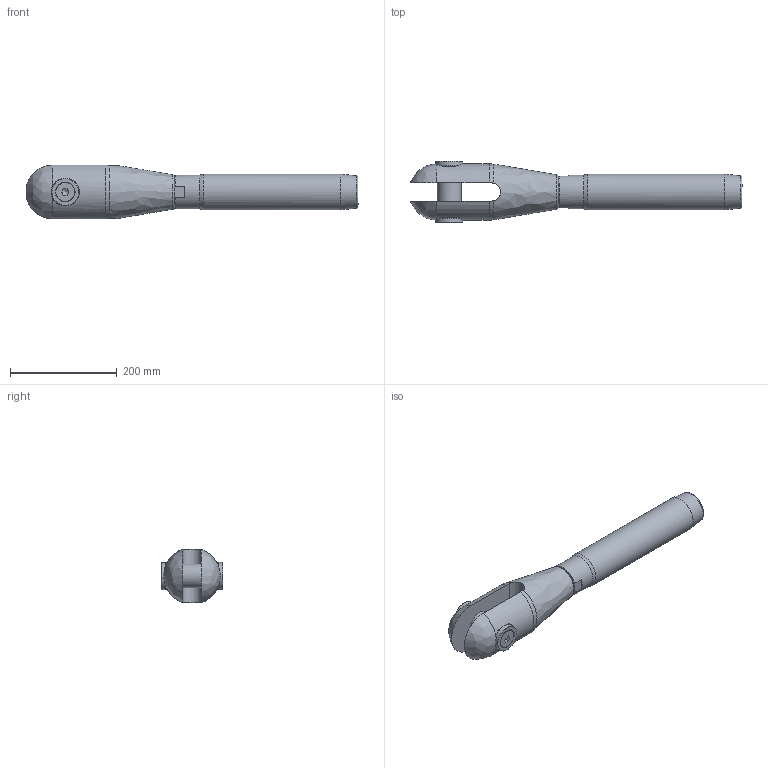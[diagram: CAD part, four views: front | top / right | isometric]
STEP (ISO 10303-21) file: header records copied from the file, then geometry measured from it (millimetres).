
FILE_DESCRIPTION(/* description */ (''),/* implementation_level */ '2;1');
FILE_NAME(/* name */ 'MAC-R 32_1,4418',/* time_stamp */ '2023-05-23T17:52:17+02:00',/* author */ (''),/* organization */ (''),/* preprocessor_version */ 'ST-DEVELOPER v16.5',/* originating_system */ 'Rhino 7.22',/* authorisation */ '');
FILE_SCHEMA (('CONFIG_CONTROL_DESIGN'));
Length unit declared in the file: millimetre
Products named in the file (1): Document
Bounding box: 623.19 x 115.01 x 100.4 mm (x, y, z)
Volume: 2629788.2 mm3; surface area: 254043.6 mm2
Topology: 7 solids, 7 shells, 88 faces, 246 edges, 171 vertices
Faces by surface type: plane 36, bspline 28, cylinder 24
Full cylindrical faces by diameter (mm): 17.294 x2, 20 x2, 21 x2, 35.4 x2, 44.752 x1, 45 x1, 47 x2, 48 x1, 51 x2, 63.5 x1, 66.8 x1
Entity records: 3558 total; most frequent: CARTESIAN_POINT 1995, ORIENTED_EDGE 482, EDGE_CURVE 241, VERTEX_POINT 171, EDGE_LOOP 100, B_SPLINE_CURVE_WITH_KNOTS 97, ADVANCED_FACE 88, FACE_OUTER_BOUND 88
